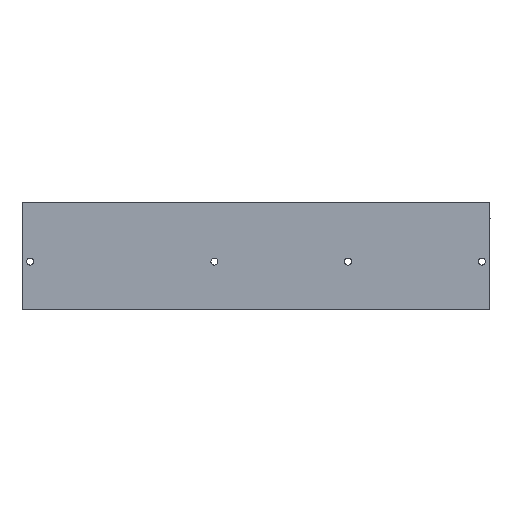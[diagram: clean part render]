
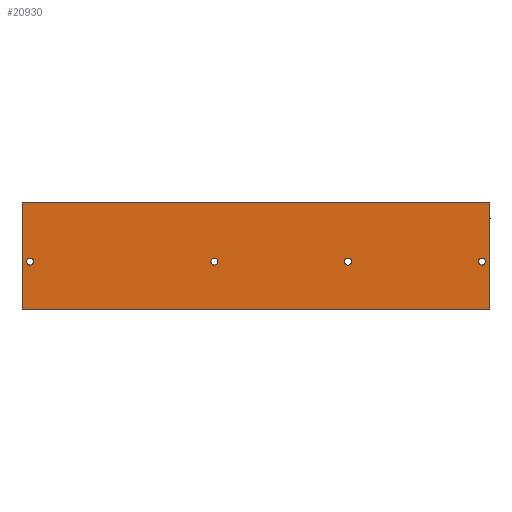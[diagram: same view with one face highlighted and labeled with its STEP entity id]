
A CAD part, front view. The second image highlights one B-rep face of the part: STEP entity #20930.
In plain terms, the highlighted planar face has unit normal (0, -1, 0).
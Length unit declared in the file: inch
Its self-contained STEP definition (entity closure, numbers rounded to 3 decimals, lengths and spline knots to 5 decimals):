
#433 = ORIENTED_EDGE ( 'NONE', *, *, #26510, .T. ) ;
#695 = VERTEX_POINT ( 'NONE', #5310 ) ;
#1018 = DIRECTION ( 'NONE',  ( 0., 1., 0. ) ) ;
#1097 = EDGE_LOOP ( 'NONE', ( #27867, #6401, #10548, #17934 ) ) ;
#1119 = CARTESIAN_POINT ( 'NONE',  ( 22.35, 0., -2.728 ) ) ;
#1140 = VECTOR ( 'NONE', #21343, 39.37008 ) ;
#1183 = DIRECTION ( 'NONE',  ( 0., 1., 0. ) ) ;
#1710 = AXIS2_PLACEMENT_3D ( 'NONE', #24326, #17751, #4405 ) ;
#1844 = ORIENTED_EDGE ( 'NONE', *, *, #10190, .T. ) ;
#1905 = DIRECTION ( 'NONE',  ( 0., 0., -1. ) ) ;
#2175 = PLANE ( 'NONE',  #1710 ) ;
#2402 = CARTESIAN_POINT ( 'NONE',  ( 15.85, 0., -3.072 ) ) ;
#2663 = DIRECTION ( 'NONE',  ( -1., 0., 0. ) ) ;
#3572 = CARTESIAN_POINT ( 'NONE',  ( 0., 0., 0. ) ) ;
#4270 = FACE_BOUND ( 'NONE', #8421, .T. ) ;
#4405 = DIRECTION ( 'NONE',  ( 0., 0., 1. ) ) ;
#4476 = AXIS2_PLACEMENT_3D ( 'NONE', #22786, #9437, #25001 ) ;
#4553 = CARTESIAN_POINT ( 'NONE',  ( 15.85, 0., -2.9 ) ) ;
#4731 = DIRECTION ( 'NONE',  ( -1., 0., 0. ) ) ;
#4741 = CARTESIAN_POINT ( 'NONE',  ( 0.4, 0., -2.9 ) ) ;
#5229 = AXIS2_PLACEMENT_3D ( 'NONE', #4741, #20703, #7334 ) ;
#5310 = CARTESIAN_POINT ( 'NONE',  ( 22.75, 0., 0. ) ) ;
#5715 = CARTESIAN_POINT ( 'NONE',  ( 0., 0., -5.25 ) ) ;
#5911 = CIRCLE ( 'NONE', #24334, 0.172 ) ;
#6401 = ORIENTED_EDGE ( 'NONE', *, *, #27044, .F. ) ;
#6658 = DIRECTION ( 'NONE',  ( 0., 1., 0. ) ) ;
#6804 = DIRECTION ( 'NONE',  ( 0., 0., 1. ) ) ;
#6832 = CARTESIAN_POINT ( 'NONE',  ( 15.85, 0., -2.728 ) ) ;
#7035 = ORIENTED_EDGE ( 'NONE', *, *, #24044, .T. ) ;
#7041 = CARTESIAN_POINT ( 'NONE',  ( 22.75, 0., -5.25 ) ) ;
#7334 = DIRECTION ( 'NONE',  ( 0., 0., 1. ) ) ;
#8063 = ORIENTED_EDGE ( 'NONE', *, *, #16827, .T. ) ;
#8067 = FACE_BOUND ( 'NONE', #11564, .T. ) ;
#8082 = DIRECTION ( 'NONE',  ( 0., 1., 0. ) ) ;
#8421 = EDGE_LOOP ( 'NONE', ( #433, #1844 ) ) ;
#8831 = LINE ( 'NONE', #28460, #14766 ) ;
#9437 = DIRECTION ( 'NONE',  ( 0., 1., 0. ) ) ;
#9633 = VERTEX_POINT ( 'NONE', #6832 ) ;
#9936 = VERTEX_POINT ( 'NONE', #1119 ) ;
#10190 = EDGE_CURVE ( 'NONE', #21178, #27904, #12411, .T. ) ;
#10548 = ORIENTED_EDGE ( 'NONE', *, *, #27159, .F. ) ;
#10684 = EDGE_CURVE ( 'NONE', #12379, #9936, #27552, .T. ) ;
#10948 = CARTESIAN_POINT ( 'NONE',  ( 9.35, 0., -2.9 ) ) ;
#11564 = EDGE_LOOP ( 'NONE', ( #18552, #8063 ) ) ;
#12379 = VERTEX_POINT ( 'NONE', #24601 ) ;
#12395 = CIRCLE ( 'NONE', #15776, 0.172 ) ;
#12411 = CIRCLE ( 'NONE', #5229, 0.172 ) ;
#12625 = ORIENTED_EDGE ( 'NONE', *, *, #10684, .T. ) ;
#13194 = DIRECTION ( 'NONE',  ( 0., 0., 1. ) ) ;
#13310 = FACE_OUTER_BOUND ( 'NONE', #1097, .T. ) ;
#13416 = VERTEX_POINT ( 'NONE', #17871 ) ;
#13675 = CIRCLE ( 'NONE', #20175, 0.172 ) ;
#13738 = CARTESIAN_POINT ( 'NONE',  ( 22.75, 0., -5.25 ) ) ;
#14353 = CARTESIAN_POINT ( 'NONE',  ( 9.35, 0., -2.9 ) ) ;
#14407 = CIRCLE ( 'NONE', #19963, 0.172 ) ;
#14474 = LINE ( 'NONE', #18081, #25578 ) ;
#14535 = CARTESIAN_POINT ( 'NONE',  ( 15.85, 0., -2.9 ) ) ;
#14766 = VECTOR ( 'NONE', #1905, 39.37008 ) ;
#15338 = CARTESIAN_POINT ( 'NONE',  ( 9.35, 0., -2.728 ) ) ;
#15776 = AXIS2_PLACEMENT_3D ( 'NONE', #4553, #20147, #6804 ) ;
#16092 = EDGE_LOOP ( 'NONE', ( #7035, #26140 ) ) ;
#16151 = EDGE_CURVE ( 'NONE', #13416, #17233, #21868, .T. ) ;
#16471 = LINE ( 'NONE', #13738, #21712 ) ;
#16597 = DIRECTION ( 'NONE',  ( 0., 0., 1. ) ) ;
#16765 = DIRECTION ( 'NONE',  ( 0., 0., 1. ) ) ;
#16827 = EDGE_CURVE ( 'NONE', #22945, #9633, #12395, .T. ) ;
#17164 = ORIENTED_EDGE ( 'NONE', *, *, #26641, .T. ) ;
#17233 = VERTEX_POINT ( 'NONE', #15338 ) ;
#17375 = EDGE_CURVE ( 'NONE', #695, #19875, #14474, .T. ) ;
#17481 = EDGE_LOOP ( 'NONE', ( #17164, #12625 ) ) ;
#17751 = DIRECTION ( 'NONE',  ( 0., 1., 0. ) ) ;
#17871 = CARTESIAN_POINT ( 'NONE',  ( 9.35, 0., -3.072 ) ) ;
#17934 = ORIENTED_EDGE ( 'NONE', *, *, #17375, .T. ) ;
#18081 = CARTESIAN_POINT ( 'NONE',  ( 22.75, 0., 0. ) ) ;
#18552 = ORIENTED_EDGE ( 'NONE', *, *, #26433, .T. ) ;
#18770 = AXIS2_PLACEMENT_3D ( 'NONE', #10948, #26496, #13194 ) ;
#18945 = LINE ( 'NONE', #23551, #1140 ) ;
#19269 = FACE_BOUND ( 'NONE', #17481, .T. ) ;
#19875 = VERTEX_POINT ( 'NONE', #3572 ) ;
#19963 = AXIS2_PLACEMENT_3D ( 'NONE', #20002, #6658, #22232 ) ;
#20002 = CARTESIAN_POINT ( 'NONE',  ( 22.35, 0., -2.9 ) ) ;
#20082 = AXIS2_PLACEMENT_3D ( 'NONE', #21456, #8082, #23654 ) ;
#20147 = DIRECTION ( 'NONE',  ( 0., 1., 0. ) ) ;
#20175 = AXIS2_PLACEMENT_3D ( 'NONE', #14535, #1183, #16765 ) ;
#20561 = VERTEX_POINT ( 'NONE', #7041 ) ;
#20703 = DIRECTION ( 'NONE',  ( 0., 1., 0. ) ) ;
#20930 = ADVANCED_FACE ( 'NONE', ( #25119, #8067, #4270, #19269, #13310 ), #2175, .F. ) ;
#21178 = VERTEX_POINT ( 'NONE', #25742 ) ;
#21343 = DIRECTION ( 'NONE',  ( 0., 0., -1. ) ) ;
#21456 = CARTESIAN_POINT ( 'NONE',  ( 0.4, 0., -2.9 ) ) ;
#21712 = VECTOR ( 'NONE', #2663, 39.37008 ) ;
#21868 = CIRCLE ( 'NONE', #18770, 0.172 ) ;
#22232 = DIRECTION ( 'NONE',  ( 0., 0., 1. ) ) ;
#22786 = CARTESIAN_POINT ( 'NONE',  ( 22.35, 0., -2.9 ) ) ;
#22945 = VERTEX_POINT ( 'NONE', #2402 ) ;
#23413 = CIRCLE ( 'NONE', #20082, 0.172 ) ;
#23551 = CARTESIAN_POINT ( 'NONE',  ( 22.75, 0., 0. ) ) ;
#23654 = DIRECTION ( 'NONE',  ( 0., 0., 1. ) ) ;
#24044 = EDGE_CURVE ( 'NONE', #17233, #13416, #5911, .T. ) ;
#24326 = CARTESIAN_POINT ( 'NONE',  ( 22.75, 0., 0. ) ) ;
#24334 = AXIS2_PLACEMENT_3D ( 'NONE', #14353, #1018, #16597 ) ;
#24601 = CARTESIAN_POINT ( 'NONE',  ( 22.35, 0., -3.072 ) ) ;
#24679 = CARTESIAN_POINT ( 'NONE',  ( 0.4, 0., -2.728 ) ) ;
#25001 = DIRECTION ( 'NONE',  ( 0., 0., 1. ) ) ;
#25119 = FACE_BOUND ( 'NONE', #16092, .T. ) ;
#25578 = VECTOR ( 'NONE', #4731, 39.37008 ) ;
#25742 = CARTESIAN_POINT ( 'NONE',  ( 0.4, 0., -3.072 ) ) ;
#26140 = ORIENTED_EDGE ( 'NONE', *, *, #16151, .T. ) ;
#26433 = EDGE_CURVE ( 'NONE', #9633, #22945, #13675, .T. ) ;
#26496 = DIRECTION ( 'NONE',  ( 0., 1., 0. ) ) ;
#26510 = EDGE_CURVE ( 'NONE', #27904, #21178, #23413, .T. ) ;
#26641 = EDGE_CURVE ( 'NONE', #9936, #12379, #14407, .T. ) ;
#26882 = EDGE_CURVE ( 'NONE', #19875, #28030, #8831, .T. ) ;
#27044 = EDGE_CURVE ( 'NONE', #20561, #28030, #16471, .T. ) ;
#27159 = EDGE_CURVE ( 'NONE', #695, #20561, #18945, .T. ) ;
#27552 = CIRCLE ( 'NONE', #4476, 0.172 ) ;
#27867 = ORIENTED_EDGE ( 'NONE', *, *, #26882, .T. ) ;
#27904 = VERTEX_POINT ( 'NONE', #24679 ) ;
#28030 = VERTEX_POINT ( 'NONE', #5715 ) ;
#28460 = CARTESIAN_POINT ( 'NONE',  ( 0., 0., 0. ) ) ;
